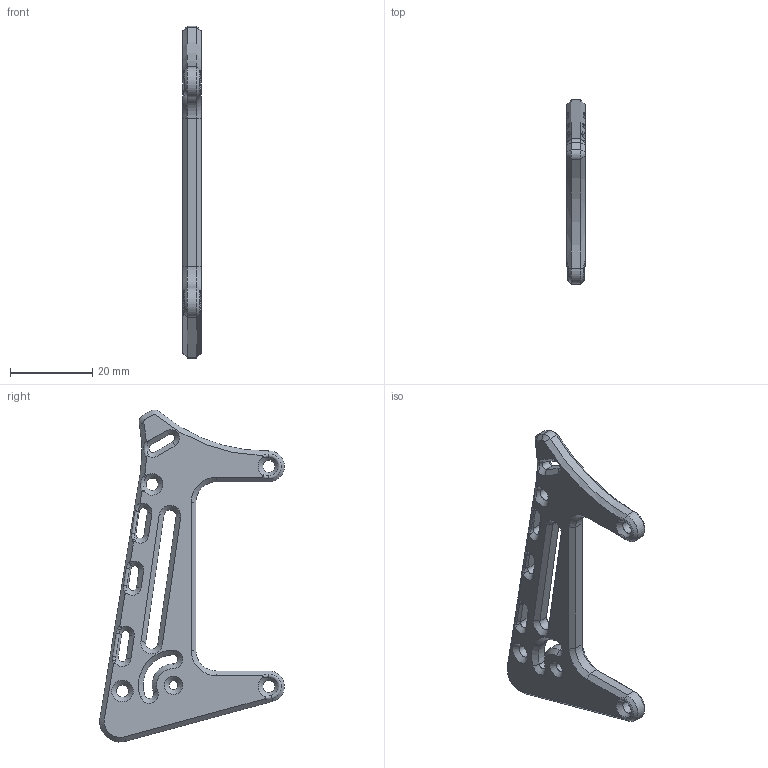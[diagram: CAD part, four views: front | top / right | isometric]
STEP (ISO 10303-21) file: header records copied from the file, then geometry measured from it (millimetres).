
FILE_DESCRIPTION(/* description */ (''),/* implementation_level */ '2;1');
FILE_NAME(/* name */ 'D:\3D Printing & CAD Work\Customers\My self\Drone 3.0\Thingiverce\Part7.stp',/* time_stamp */ '2018-11-19T19:02:04+02:00',/* author */ ('Damien'),/* organization */ (''),/* preprocessor_version */ 'ST-DEVELOPER v17',/* originating_system */ 'Autodesk Inventor 2018',/* authorisation */ '');
FILE_SCHEMA (('AUTOMOTIVE_DESIGN { 1 0 10303 214 3 1 1 }'));
Length unit declared in the file: millimetre
Products named in the file (1): Part7
Bounding box: 4.5 x 44.88 x 80.68 mm (x, y, z)
Volume: 6245.4 mm3; surface area: 4539.1 mm2
Topology: 1 solids, 1 shells, 194 faces, 496 edges, 290 vertices
Faces by surface type: cone 56, bspline 50, plane 50, cylinder 34, torus 4
Full cylindrical faces by diameter (mm): 2.2 x1, 2.999 x1, 3 x3
Entity records: 7347 total; most frequent: CARTESIAN_POINT 2893, ORIENTED_EDGE 992, DIRECTION 824, EDGE_CURVE 496, AXIS2_PLACEMENT_3D 303, VERTEX_POINT 290, LINE 218, VECTOR 218
